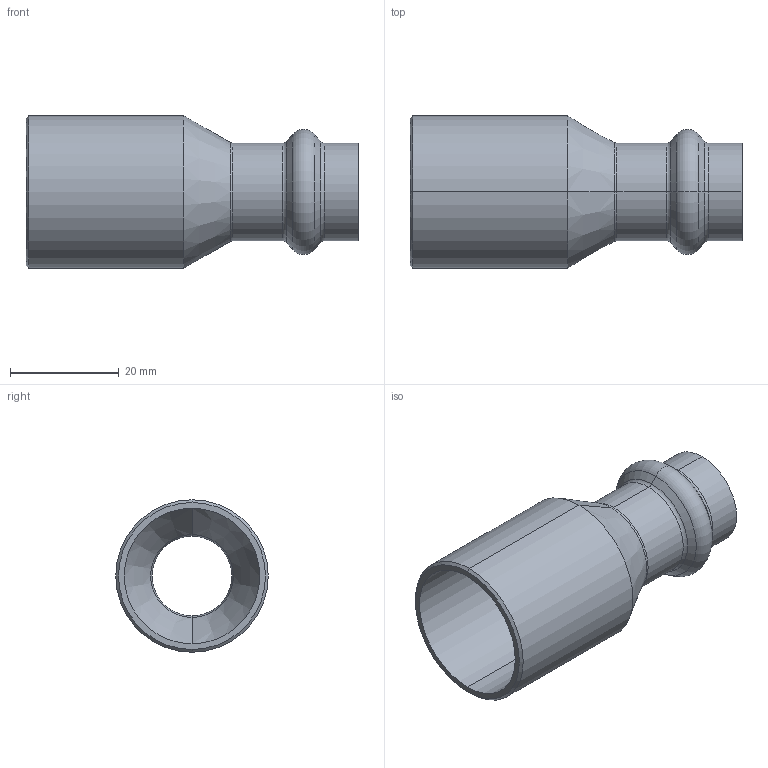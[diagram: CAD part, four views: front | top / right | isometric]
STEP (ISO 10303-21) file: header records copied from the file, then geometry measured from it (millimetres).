
FILE_DESCRIPTION (( 'STEP AP203' ), '1' );
FILE_NAME ('SP5243 28-15.STEP', '2017-04-24T09:10:38', ( '' ), ( '' ), 'SwSTEP 2.0', 'SolidWorks 2016', '' );
FILE_SCHEMA (( 'CONFIG_CONTROL_DESIGN' ));
Length unit declared in the file: millimetre
Products named in the file (1): SP5243 28-15
Bounding box: 61 x 28 x 28 mm (x, y, z)
Volume: 6660.7 mm3; surface area: 9107.3 mm2
Topology: 1 solids, 1 shells, 48 faces, 96 edges, 50 vertices
Faces by surface type: torus 18, cone 16, cylinder 12, plane 2
Entity records: 1313 total; most frequent: DIRECTION 262, CARTESIAN_POINT 195, ORIENTED_EDGE 192, AXIS2_PLACEMENT_3D 117, EDGE_CURVE 96, CIRCLE 68, VERTEX_POINT 50, EDGE_LOOP 50
